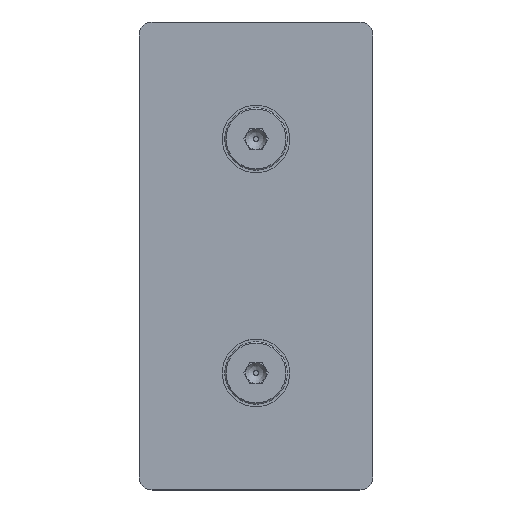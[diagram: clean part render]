
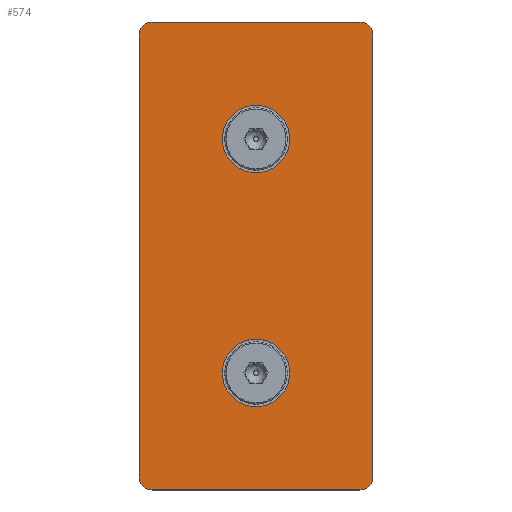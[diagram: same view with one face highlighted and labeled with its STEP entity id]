
A CAD part, top view. The second image highlights one B-rep face of the part: STEP entity #574.
In plain terms, the highlighted planar face has unit normal (0, 0, 1).
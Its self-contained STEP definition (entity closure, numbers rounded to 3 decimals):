
#41=LINE('',#968,#89);
#42=LINE('',#972,#90);
#43=LINE('',#976,#91);
#44=LINE('',#979,#92);
#89=VECTOR('',#785,10.);
#90=VECTOR('',#788,10.);
#91=VECTOR('',#791,10.);
#92=VECTOR('',#794,10.);
#143=FACE_BOUND('',#196,.T.);
#144=FACE_BOUND('',#197,.T.);
#156=FACE_OUTER_BOUND('',#195,.T.);
#195=EDGE_LOOP('',(#411,#412,#413,#414,#415,#416,#417,#418));
#196=EDGE_LOOP('',(#419));
#197=EDGE_LOOP('',(#420));
#233=CIRCLE('',#674,6.5);
#237=CIRCLE('',#681,6.5);
#239=CIRCLE('',#685,2.5);
#241=CIRCLE('',#688,2.5);
#242=CIRCLE('',#689,2.5);
#243=CIRCLE('',#690,2.5);
#262=VERTEX_POINT('',#937);
#266=VERTEX_POINT('',#950);
#268=VERTEX_POINT('',#958);
#269=VERTEX_POINT('',#959);
#272=VERTEX_POINT('',#967);
#273=VERTEX_POINT('',#969);
#274=VERTEX_POINT('',#971);
#275=VERTEX_POINT('',#973);
#276=VERTEX_POINT('',#975);
#277=VERTEX_POINT('',#977);
#311=EDGE_CURVE('',#262,#262,#233,.T.);
#317=EDGE_CURVE('',#266,#266,#237,.T.);
#321=EDGE_CURVE('',#268,#269,#239,.T.);
#325=EDGE_CURVE('',#272,#268,#41,.T.);
#326=EDGE_CURVE('',#273,#272,#241,.T.);
#327=EDGE_CURVE('',#274,#273,#42,.T.);
#328=EDGE_CURVE('',#275,#274,#242,.T.);
#329=EDGE_CURVE('',#276,#275,#43,.T.);
#330=EDGE_CURVE('',#277,#276,#243,.T.);
#331=EDGE_CURVE('',#269,#277,#44,.T.);
#411=ORIENTED_EDGE('',*,*,#321,.F.);
#412=ORIENTED_EDGE('',*,*,#325,.F.);
#413=ORIENTED_EDGE('',*,*,#326,.F.);
#414=ORIENTED_EDGE('',*,*,#327,.F.);
#415=ORIENTED_EDGE('',*,*,#328,.F.);
#416=ORIENTED_EDGE('',*,*,#329,.F.);
#417=ORIENTED_EDGE('',*,*,#330,.F.);
#418=ORIENTED_EDGE('',*,*,#331,.F.);
#419=ORIENTED_EDGE('',*,*,#311,.T.);
#420=ORIENTED_EDGE('',*,*,#317,.T.);
#545=PLANE('',#687);
#574=ADVANCED_FACE('',(#156,#143,#144),#545,.T.);
#674=AXIS2_PLACEMENT_3D('',#938,#751,#752);
#681=AXIS2_PLACEMENT_3D('',#951,#767,#768);
#685=AXIS2_PLACEMENT_3D('',#960,#777,#778);
#687=AXIS2_PLACEMENT_3D('',#966,#783,#784);
#688=AXIS2_PLACEMENT_3D('',#970,#786,#787);
#689=AXIS2_PLACEMENT_3D('',#974,#789,#790);
#690=AXIS2_PLACEMENT_3D('',#978,#792,#793);
#751=DIRECTION('center_axis',(0.,0.,-1.));
#752=DIRECTION('ref_axis',(1.,0.,0.));
#767=DIRECTION('center_axis',(0.,0.,-1.));
#768=DIRECTION('ref_axis',(1.,0.,0.));
#777=DIRECTION('center_axis',(0.,0.,-1.));
#778=DIRECTION('ref_axis',(0.707,0.707,0.));
#783=DIRECTION('center_axis',(0.,0.,1.));
#784=DIRECTION('ref_axis',(1.,0.,0.));
#785=DIRECTION('',(1.,0.,0.));
#786=DIRECTION('center_axis',(0.,0.,-1.));
#787=DIRECTION('ref_axis',(-0.707,0.707,0.));
#788=DIRECTION('',(0.,1.,0.));
#789=DIRECTION('center_axis',(0.,0.,-1.));
#790=DIRECTION('ref_axis',(-0.707,-0.707,0.));
#791=DIRECTION('',(-1.,0.,0.));
#792=DIRECTION('center_axis',(0.,0.,-1.));
#793=DIRECTION('ref_axis',(0.707,-0.707,0.));
#794=DIRECTION('',(0.,-1.,0.));
#937=CARTESIAN_POINT('',(-6.5,-45.,3.));
#938=CARTESIAN_POINT('Origin',(0.,-45.,3.));
#950=CARTESIAN_POINT('',(-6.5,0.,3.));
#951=CARTESIAN_POINT('Origin',(0.,0.,3.));
#958=CARTESIAN_POINT('',(20.,22.5,3.));
#959=CARTESIAN_POINT('',(22.5,20.,3.));
#960=CARTESIAN_POINT('Origin',(20.,20.,3.));
#966=CARTESIAN_POINT('Origin',(0.,-22.5,3.));
#967=CARTESIAN_POINT('',(-20.,22.5,3.));
#968=CARTESIAN_POINT('',(22.5,22.5,3.));
#969=CARTESIAN_POINT('',(-22.5,20.,3.));
#970=CARTESIAN_POINT('Origin',(-20.,20.,3.));
#971=CARTESIAN_POINT('',(-22.5,-65.,3.));
#972=CARTESIAN_POINT('',(-22.5,22.5,3.));
#973=CARTESIAN_POINT('',(-20.,-67.5,3.));
#974=CARTESIAN_POINT('Origin',(-20.,-65.,3.));
#975=CARTESIAN_POINT('',(20.,-67.5,3.));
#976=CARTESIAN_POINT('',(-22.5,-67.5,3.));
#977=CARTESIAN_POINT('',(22.5,-65.,3.));
#978=CARTESIAN_POINT('Origin',(20.,-65.,3.));
#979=CARTESIAN_POINT('',(22.5,-67.5,3.));
